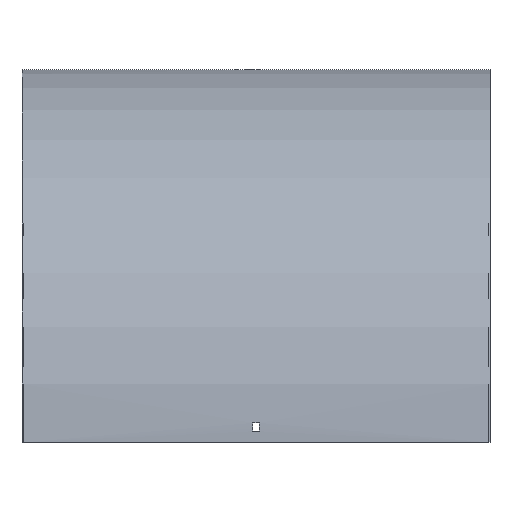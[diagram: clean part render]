
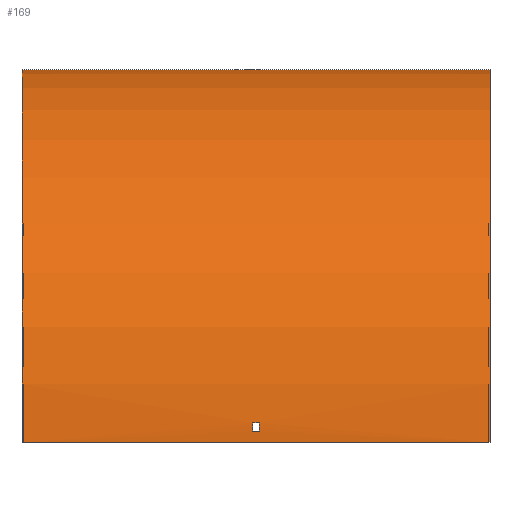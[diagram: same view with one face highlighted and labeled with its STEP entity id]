
A CAD part, top view. The second image highlights one B-rep face of the part: STEP entity #169.
In plain terms, the highlighted cylindrical face has radius 401.5 mm (diameter 803 mm), a partial arc.
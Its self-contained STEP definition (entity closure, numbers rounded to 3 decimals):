
#2 = ORIENTED_EDGE ( 'NONE', *, *, #370, .F. ) ;
#3 = CARTESIAN_POINT ( 'NONE',  ( 251.5, 0., 0. ) ) ;
#5 = DIRECTION ( 'NONE',  ( -1., 0., 0. ) ) ;
#23 = VERTEX_POINT ( 'NONE', #581 ) ;
#33 = EDGE_CURVE ( 'NONE', #70, #155, #449, .T. ) ;
#34 = CARTESIAN_POINT ( 'NONE',  ( 251.5, -401.5, 401.5 ) ) ;
#35 = VECTOR ( 'NONE', #218, 1000. ) ;
#36 = CARTESIAN_POINT ( 'NONE',  ( -3.25, -0.179, 12. ) ) ;
#37 = DIRECTION ( 'NONE',  ( 1., 0., 0. ) ) ;
#38 = VERTEX_POINT ( 'NONE', #301 ) ;
#39 = CYLINDRICAL_SURFACE ( 'NONE', #344, 401.5 ) ;
#44 = VERTEX_POINT ( 'NONE', #309 ) ;
#45 = LINE ( 'NONE', #321, #262 ) ;
#49 = EDGE_CURVE ( 'NONE', #324, #70, #442, .T. ) ;
#50 = ORIENTED_EDGE ( 'NONE', *, *, #227, .F. ) ;
#59 = CARTESIAN_POINT ( 'NONE',  ( 251.5, 0., 0. ) ) ;
#63 = DIRECTION ( 'NONE',  ( -1., 0., 0. ) ) ;
#65 = CARTESIAN_POINT ( 'NONE',  ( -251.5, -401.5, 0. ) ) ;
#70 = VERTEX_POINT ( 'NONE', #486 ) ;
#72 = DIRECTION ( 'NONE',  ( -1., 0., 0. ) ) ;
#81 = LINE ( 'NONE', #34, #35 ) ;
#85 = CARTESIAN_POINT ( 'NONE',  ( 251.5, -389.5, 401.321 ) ) ;
#86 = ORIENTED_EDGE ( 'NONE', *, *, #586, .F. ) ;
#92 = CIRCLE ( 'NONE', #440, 401.5 ) ;
#100 = AXIS2_PLACEMENT_3D ( 'NONE', #65, #441, #594 ) ;
#107 = ORIENTED_EDGE ( 'NONE', *, *, #247, .F. ) ;
#125 = ORIENTED_EDGE ( 'NONE', *, *, #437, .T. ) ;
#149 = DIRECTION ( 'NONE',  ( -1., 0., 0. ) ) ;
#155 = VERTEX_POINT ( 'NONE', #36 ) ;
#168 = VERTEX_POINT ( 'NONE', #277 ) ;
#169 = ADVANCED_FACE ( 'NONE', ( #456, #228, #175 ), #39, .T. ) ;
#175 = FACE_BOUND ( 'NONE', #360, .T. ) ;
#182 = EDGE_CURVE ( 'NONE', #548, #324, #240, .T. ) ;
#192 = DIRECTION ( 'NONE',  ( -1., 0., 0. ) ) ;
#207 = AXIS2_PLACEMENT_3D ( 'NONE', #543, #72, #265 ) ;
#215 = CIRCLE ( 'NONE', #207, 401.5 ) ;
#218 = DIRECTION ( 'NONE',  ( -1., 0., 0. ) ) ;
#221 = CARTESIAN_POINT ( 'NONE',  ( -251.5, 0., 0. ) ) ;
#227 = EDGE_CURVE ( 'NONE', #381, #233, #241, .T. ) ;
#228 = FACE_BOUND ( 'NONE', #280, .T. ) ;
#233 = VERTEX_POINT ( 'NONE', #380 ) ;
#240 = CIRCLE ( 'NONE', #317, 401.5 ) ;
#241 = CIRCLE ( 'NONE', #397, 401.5 ) ;
#247 = EDGE_CURVE ( 'NONE', #44, #23, #45, .T. ) ;
#248 = DIRECTION ( 'NONE',  ( 0., 1., 0. ) ) ;
#262 = VECTOR ( 'NONE', #192, 1000. ) ;
#265 = DIRECTION ( 'NONE',  ( 0., 0., 1. ) ) ;
#277 = CARTESIAN_POINT ( 'NONE',  ( -251.5, -401.5, 401.5 ) ) ;
#280 = EDGE_LOOP ( 'NONE', ( #462, #337, #408, #598 ) ) ;
#290 = DIRECTION ( 'NONE',  ( 1., 0., 0. ) ) ;
#294 = EDGE_CURVE ( 'NONE', #381, #595, #423, .T. ) ;
#296 = EDGE_LOOP ( 'NONE', ( #125, #319, #50, #576 ) ) ;
#301 = CARTESIAN_POINT ( 'NONE',  ( -3.25, -389.5, 401.321 ) ) ;
#302 = DIRECTION ( 'NONE',  ( 1., 0., 0. ) ) ;
#309 = CARTESIAN_POINT ( 'NONE',  ( 3.25, -380.5, 400.95 ) ) ;
#317 = AXIS2_PLACEMENT_3D ( 'NONE', #362, #404, #589 ) ;
#319 = ORIENTED_EDGE ( 'NONE', *, *, #497, .F. ) ;
#321 = CARTESIAN_POINT ( 'NONE',  ( 251.5, -380.5, 400.95 ) ) ;
#324 = VERTEX_POINT ( 'NONE', #332 ) ;
#332 = CARTESIAN_POINT ( 'NONE',  ( 3.25, -0.55, 21. ) ) ;
#337 = ORIENTED_EDGE ( 'NONE', *, *, #33, .T. ) ;
#344 = AXIS2_PLACEMENT_3D ( 'NONE', #407, #401, #549 ) ;
#353 = LINE ( 'NONE', #537, #375 ) ;
#360 = EDGE_LOOP ( 'NONE', ( #2, #107, #490, #86 ) ) ;
#362 = CARTESIAN_POINT ( 'NONE',  ( 3.25, -401.5, 0. ) ) ;
#370 = EDGE_CURVE ( 'NONE', #23, #38, #92, .T. ) ;
#375 = VECTOR ( 'NONE', #438, 1000. ) ;
#380 = CARTESIAN_POINT ( 'NONE',  ( 251.5, -401.5, 401.5 ) ) ;
#381 = VERTEX_POINT ( 'NONE', #59 ) ;
#383 = CIRCLE ( 'NONE', #100, 401.5 ) ;
#397 = AXIS2_PLACEMENT_3D ( 'NONE', #567, #290, #606 ) ;
#401 = DIRECTION ( 'NONE',  ( -1., 0., 0. ) ) ;
#404 = DIRECTION ( 'NONE',  ( 1., 0., 0. ) ) ;
#407 = CARTESIAN_POINT ( 'NONE',  ( 251.5, -401.5, 0. ) ) ;
#408 = ORIENTED_EDGE ( 'NONE', *, *, #506, .T. ) ;
#410 = VERTEX_POINT ( 'NONE', #526 ) ;
#417 = VECTOR ( 'NONE', #63, 1000. ) ;
#423 = LINE ( 'NONE', #3, #585 ) ;
#437 = EDGE_CURVE ( 'NONE', #595, #168, #383, .T. ) ;
#438 = DIRECTION ( 'NONE',  ( 1., 0., 0. ) ) ;
#439 = CARTESIAN_POINT ( 'NONE',  ( 251.5, -0.55, 21. ) ) ;
#440 = AXIS2_PLACEMENT_3D ( 'NONE', #574, #302, #248 ) ;
#441 = DIRECTION ( 'NONE',  ( 1., 0., 0. ) ) ;
#442 = LINE ( 'NONE', #439, #417 ) ;
#449 = CIRCLE ( 'NONE', #473, 401.5 ) ;
#456 = FACE_OUTER_BOUND ( 'NONE', #296, .T. ) ;
#462 = ORIENTED_EDGE ( 'NONE', *, *, #49, .T. ) ;
#473 = AXIS2_PLACEMENT_3D ( 'NONE', #572, #149, #575 ) ;
#486 = CARTESIAN_POINT ( 'NONE',  ( -3.25, -0.55, 21. ) ) ;
#490 = ORIENTED_EDGE ( 'NONE', *, *, #540, .F. ) ;
#497 = EDGE_CURVE ( 'NONE', #233, #168, #81, .T. ) ;
#506 = EDGE_CURVE ( 'NONE', #155, #548, #353, .T. ) ;
#526 = CARTESIAN_POINT ( 'NONE',  ( 3.25, -389.5, 401.321 ) ) ;
#537 = CARTESIAN_POINT ( 'NONE',  ( 251.5, -0.179, 12. ) ) ;
#540 = EDGE_CURVE ( 'NONE', #410, #44, #215, .T. ) ;
#543 = CARTESIAN_POINT ( 'NONE',  ( 3.25, -401.5, 0. ) ) ;
#547 = LINE ( 'NONE', #85, #566 ) ;
#548 = VERTEX_POINT ( 'NONE', #599 ) ;
#549 = DIRECTION ( 'NONE',  ( 0., 0., 1. ) ) ;
#566 = VECTOR ( 'NONE', #37, 1000. ) ;
#567 = CARTESIAN_POINT ( 'NONE',  ( 251.5, -401.5, 0. ) ) ;
#572 = CARTESIAN_POINT ( 'NONE',  ( -3.25, -401.5, 0. ) ) ;
#574 = CARTESIAN_POINT ( 'NONE',  ( -3.25, -401.5, 0. ) ) ;
#575 = DIRECTION ( 'NONE',  ( 0., 0., 1. ) ) ;
#576 = ORIENTED_EDGE ( 'NONE', *, *, #294, .T. ) ;
#581 = CARTESIAN_POINT ( 'NONE',  ( -3.25, -380.5, 400.95 ) ) ;
#585 = VECTOR ( 'NONE', #5, 1000. ) ;
#586 = EDGE_CURVE ( 'NONE', #38, #410, #547, .T. ) ;
#589 = DIRECTION ( 'NONE',  ( 0., 0., -1. ) ) ;
#594 = DIRECTION ( 'NONE',  ( 0., 0., -1. ) ) ;
#595 = VERTEX_POINT ( 'NONE', #221 ) ;
#598 = ORIENTED_EDGE ( 'NONE', *, *, #182, .T. ) ;
#599 = CARTESIAN_POINT ( 'NONE',  ( 3.25, -0.179, 12. ) ) ;
#606 = DIRECTION ( 'NONE',  ( 0., 0., -1. ) ) ;
